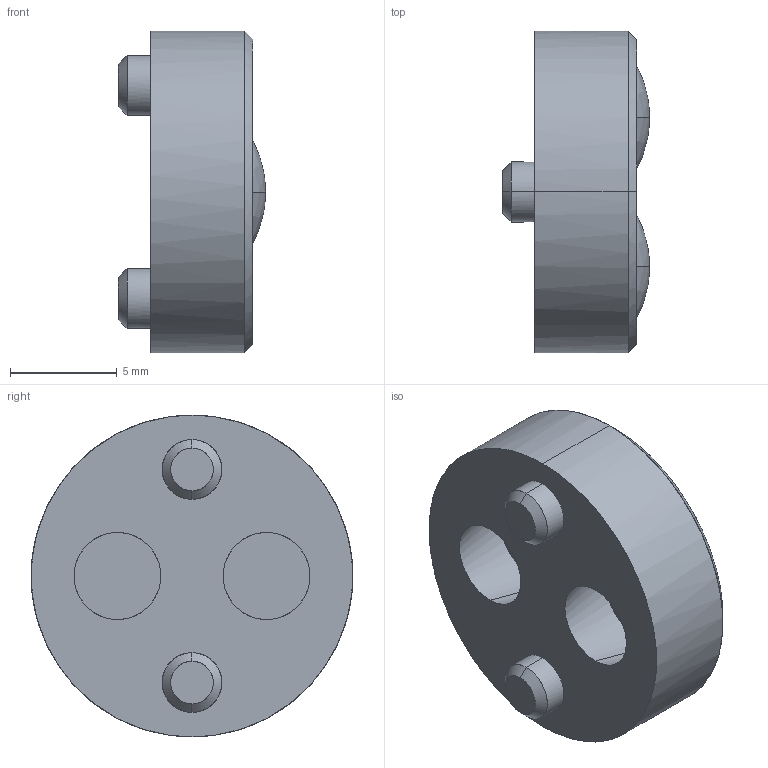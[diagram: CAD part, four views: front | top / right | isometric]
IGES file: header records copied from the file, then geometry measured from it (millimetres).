
Start section: Comment
Global section: file name: 10107250.igs; native system:  By UGS Corp.; preprocessor: XPlus GENERIC/IGES 3.0; author: Author; organization: Title; date: 20100902.163419; units: millimetre
Bounding box: 6.9 x 15.09 x 15.1 mm (x, y, z)
Surface area: 836.8 mm2 (no closed solid volume)
Topology: 0 solids, 0 shells, 40 faces, 164 edges, 156 vertices
Faces by surface type: bspline 40
